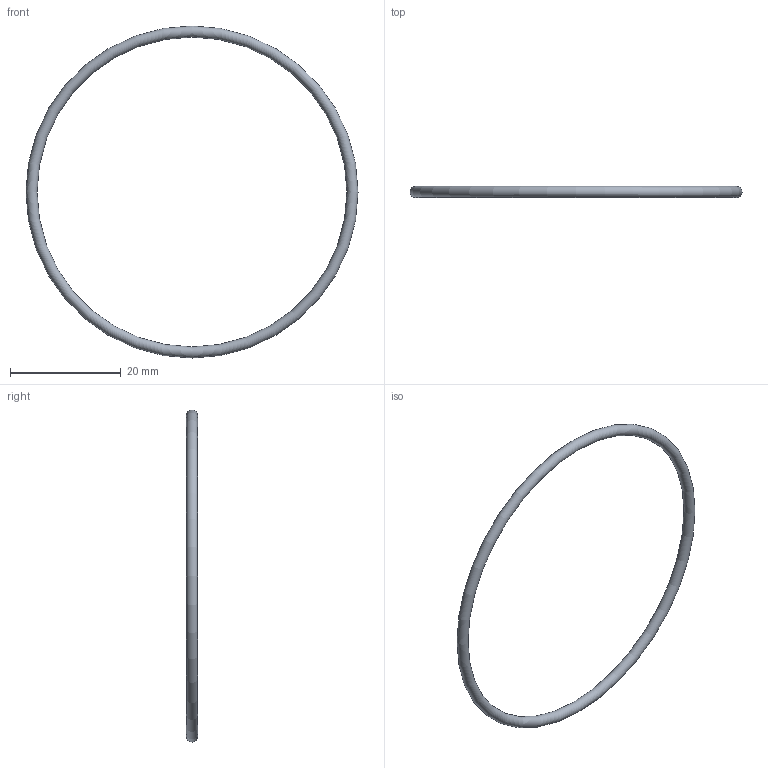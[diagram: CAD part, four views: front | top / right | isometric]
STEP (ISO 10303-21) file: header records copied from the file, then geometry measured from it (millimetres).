
FILE_DESCRIPTION( ( 'STEP AP203' ), '1' );
FILE_NAME( 'C:/Temp/Ganter_Step_05_03_2020/data/3_5/or638/O-Ring OR638-56.00-2.00-70.stp', '2020-03-12T13:44:24', ( 'License CC BY-ND 4.0' ), ( 'CADENAS' ), ' ', 'PARTsolutions', ' ' );
FILE_SCHEMA( ( 'CONFIG_CONTROL_DESIGN' ) );
Length unit declared in the file: millimetre
Products named in the file (1): _O-Ring OR638-56.00-2.00-70
Bounding box: 60 x 2 x 60 mm (x, y, z)
Volume: 572.4 mm3; surface area: 1144.9 mm2
Topology: 1 solids, 1 shells, 1 faces, 2 edges, 1 vertices
Faces by surface type: torus 1
Entity records: 62 total; most frequent: CC_DESIGN_PERSON_AND_ORGANIZATION_ASSIGNMENT 5, PERSON_AND_ORGANIZATION_ROLE 4, DIRECTION 4, CARTESIAN_POINT 3, DATE_TIME_ROLE 2, CC_DESIGN_DATE_AND_TIME_ASSIGNMENT 2, AXIS2_PLACEMENT_3D 2, DIMENSIONAL_EXPONENTS 2
